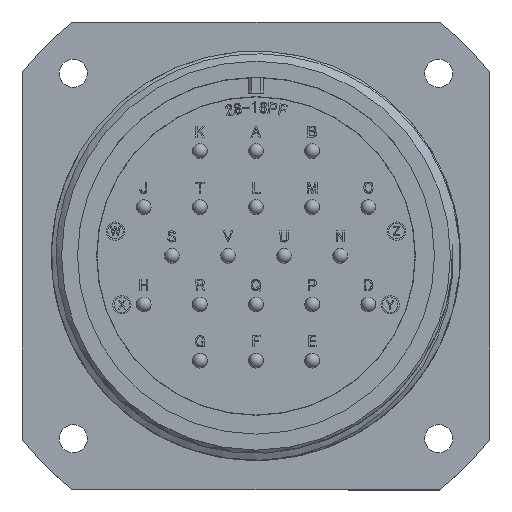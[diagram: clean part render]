
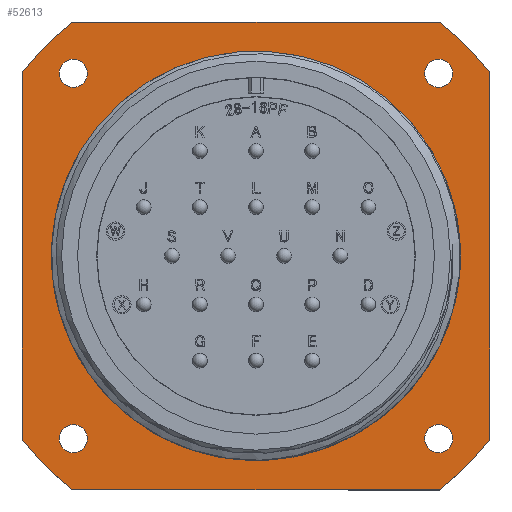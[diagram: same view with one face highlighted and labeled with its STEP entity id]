
A CAD part, top view. The second image highlights one B-rep face of the part: STEP entity #52613.
In plain terms, the highlighted planar face has unit normal (0, 0, 1).
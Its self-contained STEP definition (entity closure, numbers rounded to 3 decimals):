
#482 = ORIENTED_EDGE ( 'NONE', *, *, #10960, .T. ) ;
#659 = EDGE_CURVE ( 'NONE', #33089, #33089, #17807, .T. ) ;
#933 = EDGE_CURVE ( 'NONE', #18879, #7251, #23774, .T. ) ;
#1115 = ORIENTED_EDGE ( 'NONE', *, *, #659, .F. ) ;
#1458 = CIRCLE ( 'NONE', #37656, 32.25 ) ;
#1700 = DIRECTION ( 'NONE',  ( 0., 0., 1. ) ) ;
#2568 = DIRECTION ( 'NONE',  ( 0., 0., 1. ) ) ;
#2586 = CIRCLE ( 'NONE', #57393, 32.25 ) ;
#2940 = VECTOR ( 'NONE', #32282, 1000. ) ;
#3713 = EDGE_CURVE ( 'NONE', #41715, #39771, #1458, .T. ) ;
#4034 = ORIENTED_EDGE ( 'NONE', *, *, #16427, .F. ) ;
#4176 = VECTOR ( 'NONE', #4956, 1000. ) ;
#4956 = DIRECTION ( 'NONE',  ( -1., 0., 0. ) ) ;
#5562 = CARTESIAN_POINT ( 'NONE',  ( -19.872, -25.4, -20.8 ) ) ;
#6168 = DIRECTION ( 'NONE',  ( 0., 0., 1. ) ) ;
#6211 = DIRECTION ( 'NONE',  ( 0., 1., 0. ) ) ;
#6611 = CARTESIAN_POINT ( 'NONE',  ( 25.4, -19.872, -20.8 ) ) ;
#7251 = VERTEX_POINT ( 'NONE', #37876 ) ;
#7633 = ORIENTED_EDGE ( 'NONE', *, *, #31957, .T. ) ;
#10026 = CARTESIAN_POINT ( 'NONE',  ( 0., 0., -20.8 ) ) ;
#10369 = CARTESIAN_POINT ( 'NONE',  ( -19.872, 25.4, -20.8 ) ) ;
#10590 = CARTESIAN_POINT ( 'NONE',  ( 25.4, 25.4, -20.8 ) ) ;
#10960 = EDGE_CURVE ( 'NONE', #20015, #27428, #30183, .T. ) ;
#11402 = EDGE_LOOP ( 'NONE', ( #13280 ) ) ;
#11832 = DIRECTION ( 'NONE',  ( 0., 0., -1. ) ) ;
#11953 = FACE_OUTER_BOUND ( 'NONE', #42957, .T. ) ;
#12474 = DIRECTION ( 'NONE',  ( 0., 0., -1. ) ) ;
#13280 = ORIENTED_EDGE ( 'NONE', *, *, #55477, .F. ) ;
#13631 = LINE ( 'NONE', #14489, #2940 ) ;
#14489 = CARTESIAN_POINT ( 'NONE',  ( -25.4, 25.4, -20.8 ) ) ;
#14599 = DIRECTION ( 'NONE',  ( 1., 0., 0. ) ) ;
#14935 = ORIENTED_EDGE ( 'NONE', *, *, #36229, .F. ) ;
#14995 = DIRECTION ( 'NONE',  ( 0., 0., 1. ) ) ;
#15147 = VERTEX_POINT ( 'NONE', #24465 ) ;
#15184 = DIRECTION ( 'NONE',  ( 1., 0., 0. ) ) ;
#15305 = EDGE_CURVE ( 'NONE', #51628, #51628, #42632, .T. ) ;
#15433 = DIRECTION ( 'NONE',  ( 0., 0., 1. ) ) ;
#15808 = AXIS2_PLACEMENT_3D ( 'NONE', #24534, #6168, #38101 ) ;
#16244 = FACE_BOUND ( 'NONE', #11402, .T. ) ;
#16427 = EDGE_CURVE ( 'NONE', #22605, #27428, #2586, .T. ) ;
#17399 = AXIS2_PLACEMENT_3D ( 'NONE', #10026, #14995, #14599 ) ;
#17807 = CIRCLE ( 'NONE', #18046, 1.525 ) ;
#18046 = AXIS2_PLACEMENT_3D ( 'NONE', #51547, #1700, #19912 ) ;
#18879 = VERTEX_POINT ( 'NONE', #5562 ) ;
#19374 = EDGE_CURVE ( 'NONE', #49463, #49463, #58753, .T. ) ;
#19912 = DIRECTION ( 'NONE',  ( 1., 0., 0. ) ) ;
#20015 = VERTEX_POINT ( 'NONE', #6611 ) ;
#20891 = VERTEX_POINT ( 'NONE', #29052 ) ;
#21326 = DIRECTION ( 'NONE',  ( 1., 0., 0. ) ) ;
#21897 = ORIENTED_EDGE ( 'NONE', *, *, #3713, .F. ) ;
#21921 = CARTESIAN_POINT ( 'NONE',  ( 0., 0., -20.8 ) ) ;
#22002 = EDGE_LOOP ( 'NONE', ( #31908 ) ) ;
#22054 = FACE_BOUND ( 'NONE', #46239, .T. ) ;
#22234 = EDGE_CURVE ( 'NONE', #41715, #41821, #13631, .T. ) ;
#22605 = VERTEX_POINT ( 'NONE', #32215 ) ;
#23126 = CARTESIAN_POINT ( 'NONE',  ( -25.4, 25.4, -20.8 ) ) ;
#23477 = CARTESIAN_POINT ( 'NONE',  ( 21.36, 19.835, -20.8 ) ) ;
#23774 = LINE ( 'NONE', #42542, #29501 ) ;
#24306 = ORIENTED_EDGE ( 'NONE', *, *, #933, .T. ) ;
#24465 = CARTESIAN_POINT ( 'NONE',  ( 22.205, 0., -20.8 ) ) ;
#24534 = CARTESIAN_POINT ( 'NONE',  ( 0., 0., -20.8 ) ) ;
#25232 = DIRECTION ( 'NONE',  ( 1., 0., 0. ) ) ;
#25306 = CARTESIAN_POINT ( 'NONE',  ( 19.835, -19.835, -20.8 ) ) ;
#25362 = EDGE_LOOP ( 'NONE', ( #25853 ) ) ;
#25853 = ORIENTED_EDGE ( 'NONE', *, *, #54220, .F. ) ;
#25926 = DIRECTION ( 'NONE',  ( 0., 0., -1. ) ) ;
#26017 = CARTESIAN_POINT ( 'NONE',  ( 0., 0., -20.8 ) ) ;
#26074 = CIRCLE ( 'NONE', #42752, 32.25 ) ;
#27224 = EDGE_CURVE ( 'NONE', #20015, #7251, #26074, .T. ) ;
#27428 = VERTEX_POINT ( 'NONE', #55179 ) ;
#27879 = CARTESIAN_POINT ( 'NONE',  ( 21.36, -19.835, -20.8 ) ) ;
#28413 = FACE_BOUND ( 'NONE', #25362, .T. ) ;
#29052 = CARTESIAN_POINT ( 'NONE',  ( -18.31, -19.835, -20.8 ) ) ;
#29501 = VECTOR ( 'NONE', #15184, 1000. ) ;
#30097 = DIRECTION ( 'NONE',  ( 1., 0., 0. ) ) ;
#30183 = LINE ( 'NONE', #10590, #55048 ) ;
#30851 = CARTESIAN_POINT ( 'NONE',  ( 0., 0., -20.8 ) ) ;
#31908 = ORIENTED_EDGE ( 'NONE', *, *, #19374, .F. ) ;
#31957 = EDGE_CURVE ( 'NONE', #22605, #39771, #32722, .T. ) ;
#32215 = CARTESIAN_POINT ( 'NONE',  ( 19.872, 25.4, -20.8 ) ) ;
#32282 = DIRECTION ( 'NONE',  ( 0., -1., 0. ) ) ;
#32722 = LINE ( 'NONE', #23126, #4176 ) ;
#33089 = VERTEX_POINT ( 'NONE', #23477 ) ;
#33630 = DIRECTION ( 'NONE',  ( 1., 0., 0. ) ) ;
#34021 = CARTESIAN_POINT ( 'NONE',  ( -19.835, 19.835, -20.8 ) ) ;
#34568 = CARTESIAN_POINT ( 'NONE',  ( -25.4, 19.872, -20.8 ) ) ;
#35439 = CARTESIAN_POINT ( 'NONE',  ( 0., 0., -20.8 ) ) ;
#35700 = ORIENTED_EDGE ( 'NONE', *, *, #15305, .F. ) ;
#35942 = CIRCLE ( 'NONE', #52535, 32.25 ) ;
#36229 = EDGE_CURVE ( 'NONE', #18879, #41821, #35942, .T. ) ;
#36356 = CIRCLE ( 'NONE', #17399, 22.205 ) ;
#36970 = CARTESIAN_POINT ( 'NONE',  ( -19.835, -19.835, -20.8 ) ) ;
#37622 = AXIS2_PLACEMENT_3D ( 'NONE', #34021, #15433, #33630 ) ;
#37656 = AXIS2_PLACEMENT_3D ( 'NONE', #35439, #40431, #49396 ) ;
#37876 = CARTESIAN_POINT ( 'NONE',  ( 19.872, -25.4, -20.8 ) ) ;
#38101 = DIRECTION ( 'NONE',  ( 1., 0., 0. ) ) ;
#39771 = VERTEX_POINT ( 'NONE', #10369 ) ;
#39791 = CIRCLE ( 'NONE', #53741, 1.525 ) ;
#40227 = DIRECTION ( 'NONE',  ( 1., 0., 0. ) ) ;
#40431 = DIRECTION ( 'NONE',  ( 0., 0., -1. ) ) ;
#41715 = VERTEX_POINT ( 'NONE', #34568 ) ;
#41821 = VERTEX_POINT ( 'NONE', #58434 ) ;
#41951 = DIRECTION ( 'NONE',  ( 0., 0., 1. ) ) ;
#42542 = CARTESIAN_POINT ( 'NONE',  ( -25.4, -25.4, -20.8 ) ) ;
#42632 = CIRCLE ( 'NONE', #58104, 1.525 ) ;
#42752 = AXIS2_PLACEMENT_3D ( 'NONE', #21921, #25926, #21326 ) ;
#42957 = EDGE_LOOP ( 'NONE', ( #4034, #7633, #21897, #47315, #14935, #24306, #51040, #482 ) ) ;
#46116 = DIRECTION ( 'NONE',  ( 1., 0., 0. ) ) ;
#46239 = EDGE_LOOP ( 'NONE', ( #1115 ) ) ;
#47315 = ORIENTED_EDGE ( 'NONE', *, *, #22234, .T. ) ;
#49396 = DIRECTION ( 'NONE',  ( 1., 0., 0. ) ) ;
#49463 = VERTEX_POINT ( 'NONE', #55352 ) ;
#49889 = FACE_BOUND ( 'NONE', #57639, .T. ) ;
#51040 = ORIENTED_EDGE ( 'NONE', *, *, #27224, .F. ) ;
#51547 = CARTESIAN_POINT ( 'NONE',  ( 19.835, 19.835, -20.8 ) ) ;
#51628 = VERTEX_POINT ( 'NONE', #27879 ) ;
#51633 = PLANE ( 'NONE',  #15808 ) ;
#52535 = AXIS2_PLACEMENT_3D ( 'NONE', #26017, #11832, #25232 ) ;
#52613 = ADVANCED_FACE ( 'NONE', ( #54091, #22054, #49889, #16244, #11953, #28413 ), #51633, .T. ) ;
#53741 = AXIS2_PLACEMENT_3D ( 'NONE', #36970, #41951, #46116 ) ;
#54091 = FACE_BOUND ( 'NONE', #22002, .T. ) ;
#54220 = EDGE_CURVE ( 'NONE', #15147, #15147, #36356, .T. ) ;
#55048 = VECTOR ( 'NONE', #6211, 1000. ) ;
#55179 = CARTESIAN_POINT ( 'NONE',  ( 25.4, 19.872, -20.8 ) ) ;
#55352 = CARTESIAN_POINT ( 'NONE',  ( -18.31, 19.835, -20.8 ) ) ;
#55477 = EDGE_CURVE ( 'NONE', #20891, #20891, #39791, .T. ) ;
#57393 = AXIS2_PLACEMENT_3D ( 'NONE', #30851, #12474, #40227 ) ;
#57639 = EDGE_LOOP ( 'NONE', ( #35700 ) ) ;
#58104 = AXIS2_PLACEMENT_3D ( 'NONE', #25306, #2568, #30097 ) ;
#58434 = CARTESIAN_POINT ( 'NONE',  ( -25.4, -19.872, -20.8 ) ) ;
#58753 = CIRCLE ( 'NONE', #37622, 1.525 ) ;
